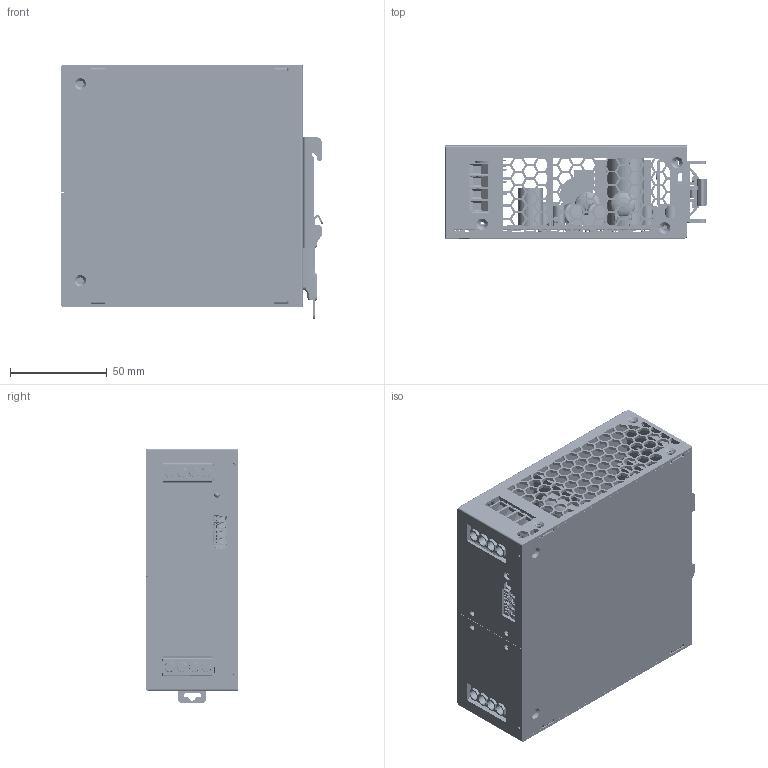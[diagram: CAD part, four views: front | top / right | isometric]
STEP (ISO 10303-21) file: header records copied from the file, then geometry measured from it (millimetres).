
FILE_DESCRIPTION(('Creo Elements/Direct Modeling STEP Export'),'2;1');
FILE_NAME('XTR-240.stp','2025-02-12T19:06:36',(''),(''),'Creo Elements/Direct Modeling STEP processor for AP214 (Solid Model)','Creo Elements/Direct Modeling 19.0G 27-Nov-2017 (C) Parametric Technology GmbH','');
FILE_SCHEMA(('AUTOMOTIVE_DESIGN { 1 0 10303 214 1 1 1 1 }'));
Length unit declared in the file: millimetre
Products named in the file (627): 麦拉; 麦拉2; 麦拉12; BOARD.PRT; 1EE2-5X20-HZ.PRT; SPHERE-11739.PRT; 1000254784.ASM; CYLINDER-11793.PRT; 1000254936.ASM; CYLINDER-11985.PRT; 1000255088.ASM; CYLINDER-12177.PRT; 1000255240.ASM; CYLINDER-12369.PRT; 1000255392.ASM; CYLINDER-12561.PRT; 1000255544.ASM; CYLINDER-12753.PRT; 1000255696.ASM; SPHERE-12945.PRT; 1000255848.ASM; FS1.ASM; FS2.ASM; FS3.ASM; SPHERE-13258.PRT; 1000256000.ASM.5; CYLINDER-13312.PRT; 1000256152.ASM.6; CYLINDER-13514.PRT; 1000256304.ASM; CYLINDER-13706.PRT; 1000256456.ASM; CYLINDER-13898.PRT; 1000256608.ASM; CYLINDER-14090.PRT; 1000256760.ASM; CYLINDER-14282.PRT; 1000256912.ASM; CYLINDER-14474.PRT; 1000257064.ASM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
Assembly tree (949 placements, depth 9):
  XTR-240
    端子
      MHS033
      MHS033.1
      零件1.2
      零件1.3
      零件3
      零件1
      零件1.1
      零件2
      电位器
    挂座.1
    CASE.stp
      NSDR-480.ASM
        _X2_63025EA7_X0_.ASM
          15_1.PRT
          15_3.PRT
          15_2.PRT
        _X2_4E0A4E0B76D6_X0_.ASM
          _X2_4E0A76D6_X0_-1209410.ASM
            _X2_4E0A76D6_X0_-1209080.PRT
          _X2_4E0B76D6_X0_.PRT
    PTR-240
      散热片
      散热片3
        PIN2-2
        散热片.1
      散热片2
      零件
        DG212R-THR-3.5-02P-13-1000A_Z(H).stp
          DG212R-THR-3.5-05P-1Y-1000A_Z(H).1
          DG212R-THR-3.5-05P-1Y-1000A_Z(H)
        产品1_AllCATPart.1.1.1
        产品1_AllCATPart.1.1
      零件1
    PCB新
      XTR-240A-R1X.step
        PCB.ASM
          RJ1.ASM
            1000108304.ASM
              1000108304_4.PRT
              1000108304_3.PRT
              1000108304_2.PRT
              1000108304_1.PRT
          T3.ASM
            1DL5-EE-13-10P-VT.ASM
              1DL5-EE-13-10P-VT_20.PRT
              1DL5-EE-13-10P-VT_19.PRT
              1DL5-EE-13-10P-VT_18.PRT
              1DL5-EE-13-10P-VT_17.PRT
              1DL5-EE-13-10P-VT_16.PRT
              1DL5-EE-13-10P-VT_15.PRT
              1DL5-EE-13-10P-VT_14.PRT
              1DL5-EE-13-10P-VT_13.PRT
              1DL5-EE-13-10P-VT_12.PRT
              1DL5-EE-13-10P-VT_11.PRT
              1DL5-EE-13-10P-VT_10.PRT
              1DL5-EE-13-10P-VT_9.PRT
              1DL5-EE-13-10P-VT_8.PRT
              1DL5-EE-13-10P-VT_7.PRT
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Bounding box: 136.2 x 48 x 131.69 mm (x, y, z)
Volume: 243773.2 mm3; surface area: 278646.3 mm2
Topology: 795 solids, 839 shells, 24162 faces, 63889 edges, 41866 vertices
Faces by surface type: plane 15975, extrusion 4242, cylinder 2800, sphere 431, torus 342, bspline 243, cone 104, revolution 25
Entity records: 458377 total; most frequent: CARTESIAN_POINT 130189, ORIENTED_EDGE 63668, DIRECTION 55446, EDGE_CURVE 31862, VECTOR 26408, LINE 25817, VERTEX_POINT 21027, AXIS2_PLACEMENT_3D 14514
